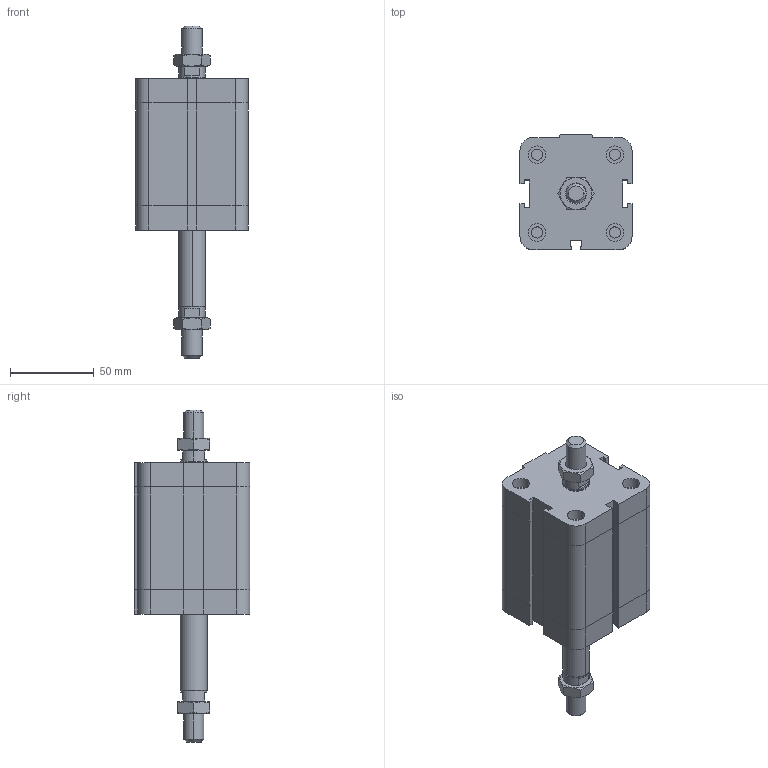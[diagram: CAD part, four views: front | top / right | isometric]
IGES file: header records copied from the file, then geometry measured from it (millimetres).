
Global section: file name: No Iges File Name specified; native system: Autodesk Inventor 2009; preprocessor: AutoDesk Inventor Iges Exporter R2009; author: maffial1; date: 20090420.200753; units: millimetre
Bounding box: 67 x 69 x 198.5 mm (x, y, z)
Volume: 398780.2 mm3; surface area: 56994.1 mm2
Topology: 4 solids, 4 shells, 260 faces, 574 edges, 342 vertices
Faces by surface type: plane 129, bspline 51, cone 38, cylinder 22, revolution 20
